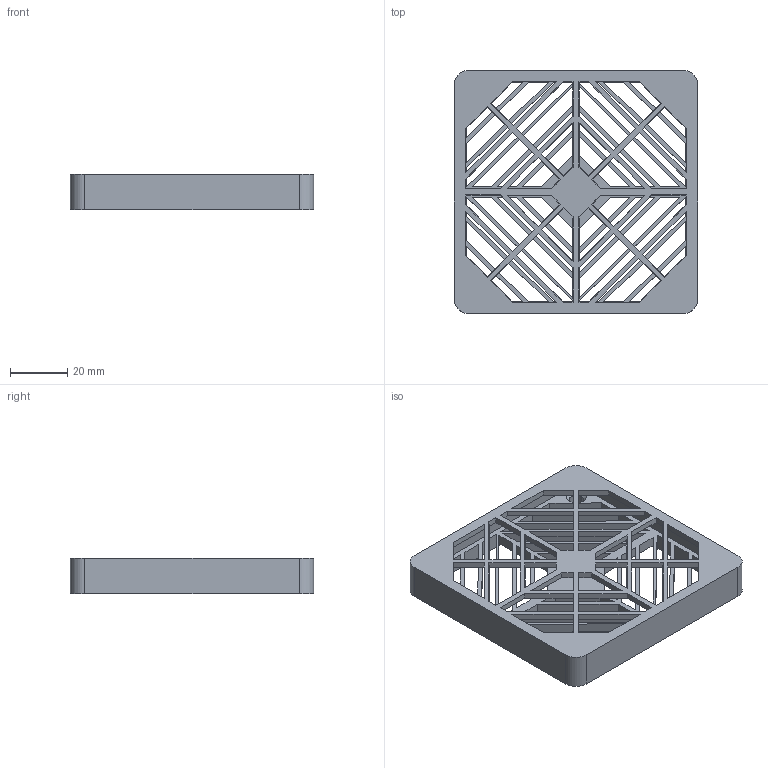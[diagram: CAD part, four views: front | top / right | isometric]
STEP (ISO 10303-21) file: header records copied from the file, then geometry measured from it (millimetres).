
FILE_DESCRIPTION (( 'STEP AP214' ), '1' );
FILE_NAME ('F80-MR.STEP', '2021-01-19T13:31:48', ( '' ), ( '' ), 'SwSTEP 2.0', 'SolidWorks 2019', '' );
FILE_SCHEMA (( 'AUTOMOTIVE_DESIGN' ));
Length unit declared in the file: millimetre
Products named in the file (3): base G80; F80-MR; coperchio F80
Assembly tree (2 placements, depth 2):
  F80-MR
    base G80
    coperchio F80
Bounding box: 85.3 x 85.3 x 12.5 mm (x, y, z)
Volume: 23110.9 mm3; surface area: 30764.1 mm2
Topology: 2 solids, 2 shells, 234 faces, 712 edges, 472 vertices
Faces by surface type: plane 206, cylinder 20, cone 8
Entity records: 8290 total; most frequent: ORIENTED_EDGE 1424, CARTESIAN_POINT 1423, DIRECTION 1238, EDGE_CURVE 712, LINE 664, VECTOR 664, VERTEX_POINT 472, EDGE_LOOP 328
